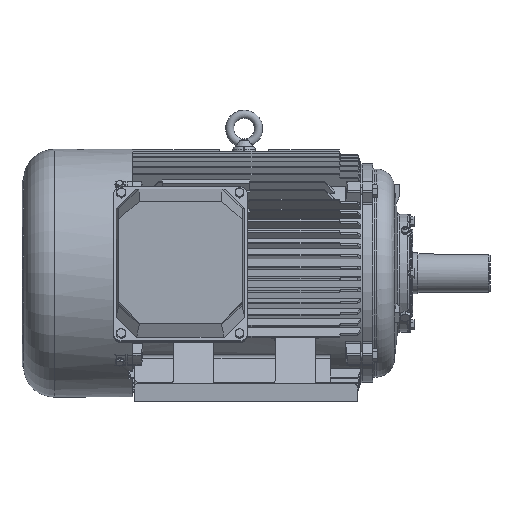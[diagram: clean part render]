
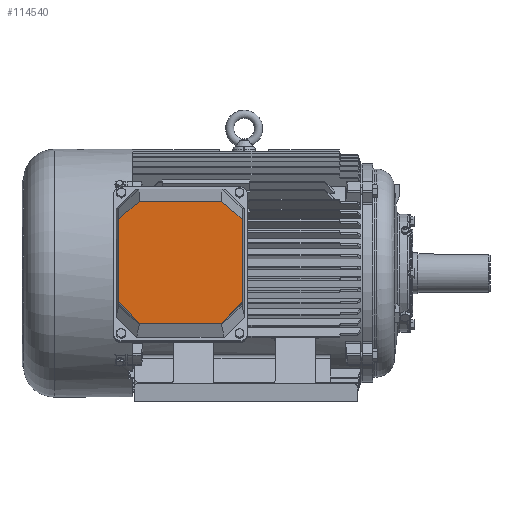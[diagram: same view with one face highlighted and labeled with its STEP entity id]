
A CAD part, left-side view. The second image highlights one B-rep face of the part: STEP entity #114540.
In plain terms, the highlighted planar face has unit normal (-1, 0, 0) as drawn and (0, -0.944, -0.33) by its records, which use the part's own axes.
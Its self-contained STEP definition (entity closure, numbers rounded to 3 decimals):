
#11672=LINE('',#212346,#22025);
#11673=LINE('',#212349,#22026);
#11674=LINE('',#212351,#22027);
#11675=LINE('',#212353,#22028);
#11676=LINE('',#212355,#22029);
#11677=LINE('',#212357,#22030);
#11678=LINE('',#212359,#22031);
#11679=LINE('',#212361,#22032);
#22025=VECTOR('',#144812,1000.);
#22026=VECTOR('',#144813,1000.);
#22027=VECTOR('',#144814,1000.);
#22028=VECTOR('',#144815,1000.);
#22029=VECTOR('',#144816,1000.);
#22030=VECTOR('',#144817,1000.);
#22031=VECTOR('',#144818,1000.);
#22032=VECTOR('',#144819,1000.);
#27744=PLANE('',#121400);
#54891=ORIENTED_EDGE('',*,*,#69592,.F.);
#54892=ORIENTED_EDGE('',*,*,#69593,.T.);
#54893=ORIENTED_EDGE('',*,*,#69594,.F.);
#54894=ORIENTED_EDGE('',*,*,#69595,.T.);
#54895=ORIENTED_EDGE('',*,*,#69596,.T.);
#54896=ORIENTED_EDGE('',*,*,#69597,.F.);
#54897=ORIENTED_EDGE('',*,*,#69598,.F.);
#54898=ORIENTED_EDGE('',*,*,#69599,.T.);
#69592=EDGE_CURVE('',#79177,#79178,#11672,.T.);
#69593=EDGE_CURVE('',#79177,#79179,#11673,.T.);
#69594=EDGE_CURVE('',#79180,#79179,#11674,.T.);
#69595=EDGE_CURVE('',#79180,#79181,#11675,.T.);
#69596=EDGE_CURVE('',#79181,#79182,#11676,.T.);
#69597=EDGE_CURVE('',#79183,#79182,#11677,.T.);
#69598=EDGE_CURVE('',#79184,#79183,#11678,.T.);
#69599=EDGE_CURVE('',#79184,#79178,#11679,.T.);
#79177=VERTEX_POINT('',#212347);
#79178=VERTEX_POINT('',#212348);
#79179=VERTEX_POINT('',#212350);
#79180=VERTEX_POINT('',#212352);
#79181=VERTEX_POINT('',#212354);
#79182=VERTEX_POINT('',#212356);
#79183=VERTEX_POINT('',#212358);
#79184=VERTEX_POINT('',#212360);
#88053=EDGE_LOOP('',(#54891,#54892,#54893,#54894,#54895,#54896,#54897,#54898));
#95169=FACE_BOUND('',#88053,.T.);
#114540=ADVANCED_FACE('',(#95169),#27744,.T.);
#121400=AXIS2_PLACEMENT_3D('',#212345,#144810,#144811);
#144810=DIRECTION('',(0.,-0.944,-0.33));
#144811=DIRECTION('',(0.,0.33,-0.944));
#144812=DIRECTION('',(-1.,0.,0.));
#144813=DIRECTION('',(0.686,-0.24,0.686));
#144814=DIRECTION('',(0.,0.33,-0.944));
#144815=DIRECTION('',(-0.76,-0.215,0.614));
#144816=DIRECTION('',(-1.,0.,0.));
#144817=DIRECTION('',(0.76,-0.215,0.614));
#144818=DIRECTION('',(0.,-0.33,0.944));
#144819=DIRECTION('',(0.686,0.24,-0.686));
#212345=CARTESIAN_POINT('',(130.,-26.055,-129.945));
#212346=CARTESIAN_POINT('',(130.,-26.055,-129.945));
#212347=CARTESIAN_POINT('',(80.,-26.055,-129.945));
#212348=CARTESIAN_POINT('',(-80.,-26.055,-129.945));
#212349=CARTESIAN_POINT('',(103.559,-34.296,-106.386));
#212350=CARTESIAN_POINT('',(120.,-40.047,-89.945));
#212351=CARTESIAN_POINT('',(120.,-26.055,-129.945));
#212352=CARTESIAN_POINT('',(120.,-92.996,61.419));
#212353=CARTESIAN_POINT('',(225.919,-63.078,-24.106));
#212354=CARTESIAN_POINT('',(80.,-104.294,93.718));
#212355=CARTESIAN_POINT('',(130.,-104.294,93.718));
#212356=CARTESIAN_POINT('',(-80.,-104.294,93.718));
#212357=CARTESIAN_POINT('',(-75.784,-105.485,97.122));
#212358=CARTESIAN_POINT('',(-120.,-92.996,61.419));
#212359=CARTESIAN_POINT('',(-120.,-26.055,-129.945));
#212360=CARTESIAN_POINT('',(-120.,-40.047,-89.945));
#212361=CARTESIAN_POINT('',(18.946,8.557,-228.891));
